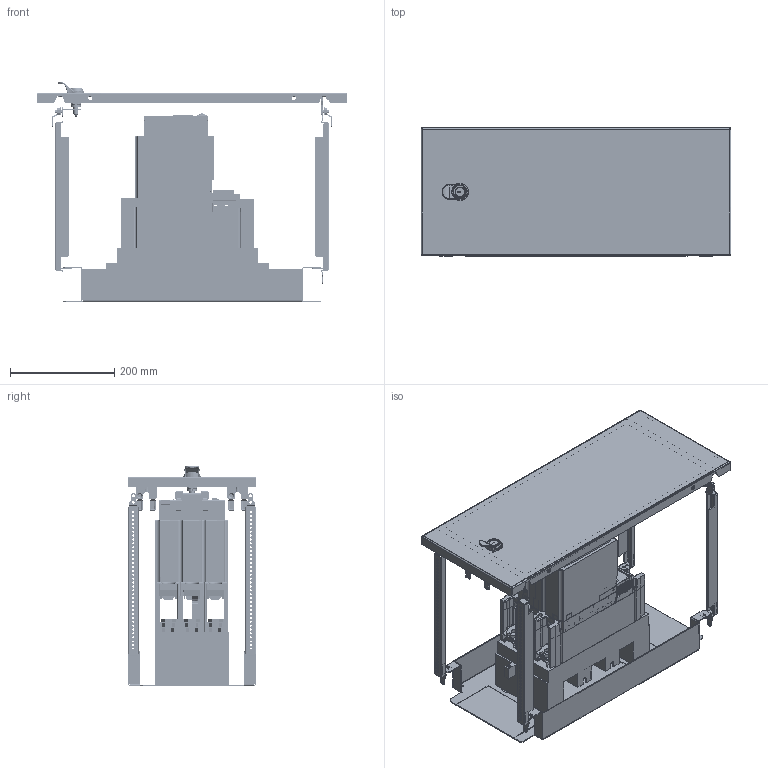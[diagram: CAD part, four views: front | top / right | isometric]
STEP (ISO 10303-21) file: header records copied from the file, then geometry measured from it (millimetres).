
FILE_DESCRIPTION(('CAx-IF Rec.Pracs.---Model Styling and Organization---1.2---2011-12-15','CAx-IF Rec.Pracs.---Geometric and Assembly Validation Properties---4.1---2014-06-16','CAx-IF Rec.Pracs.---PMI Polyline Presentation---2.0---2013-05-24'),'2;1');
FILE_NAME('R5PKEB7H61416.stp','2021-07-29T02:09:11+03:00',(''),(''),'STEP Interface 4.4 by CT CoreTechnologie','3D_Evolution4.4 by CT CoreTechnologie','');
FILE_SCHEMA(('AUTOMOTIVE_DESIGN { 1 0 10303 214 1 1 1 1 }'));
Length unit declared in the file: millimetre
Products named in the file (1): R5PKEB7H61416
Bounding box: 594 x 245 x 421.25 mm (x, y, z)
Surface area: 1925176.1 mm2 (no closed solid volume)
Topology: 0 solids, 97 shells, 6393 faces, 18550 edges, 12255 vertices
Faces by surface type: plane 3869, cylinder 2109, bspline 415
Entity records: 222231 total; most frequent: CARTESIAN_POINT 50812, ORIENTED_EDGE 36966, DIRECTION 34487, EDGE_CURVE 18488, VECTOR 13649, LINE 13649, VERTEX_POINT 12276, AXIS2_PLACEMENT_3D 10419
